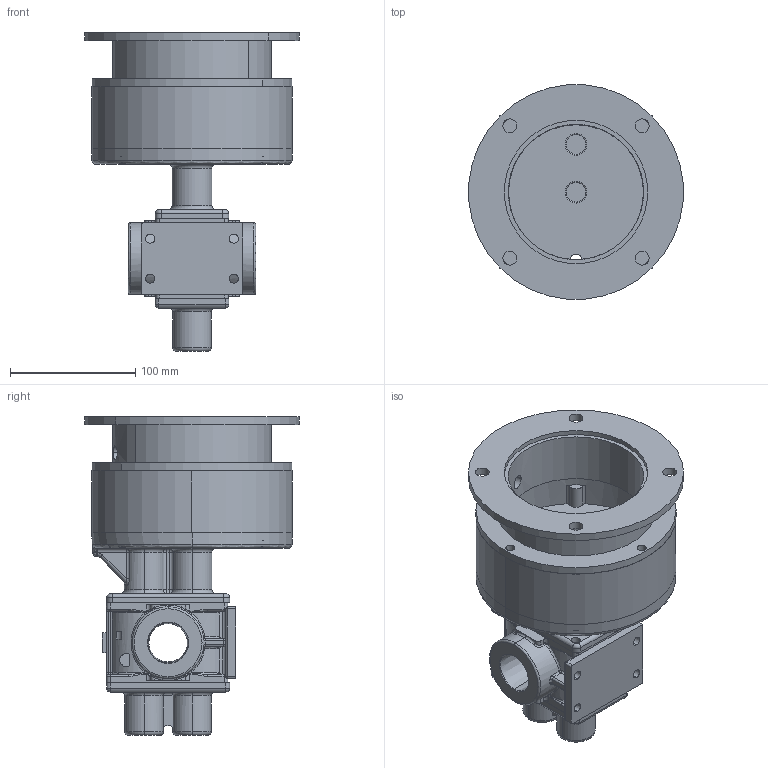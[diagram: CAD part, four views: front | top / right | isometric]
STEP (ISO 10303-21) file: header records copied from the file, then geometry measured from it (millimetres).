
FILE_DESCRIPTION (( 'STEP AP214' ), '1' );
FILE_NAME ('GMC8 FNPT 56-140 NO MOTOR.STEP', '2025-10-02T11:24:02', ( '' ), ( '' ), 'SwSTEP 2.0', 'SolidWorks 2024', '' );
FILE_SCHEMA (( 'AUTOMOTIVE_DESIGN' ));
Length unit declared in the file: inch
Products named in the file (1): GMC8 FNPT 56-140 NO MOTOR
Bounding box: 170.8 x 170.8 x 254.18 mm (x, y, z)
Volume: 1038855 mm3; surface area: 302777.1 mm2
Topology: 12 solids, 12 shells, 1918 faces, 5067 edges, 3260 vertices
Faces by surface type: plane 869, cylinder 433, bspline 396, torus 110, cone 81, sphere 29
Entity records: 79110 total; most frequent: CARTESIAN_POINT 33611, ORIENTED_EDGE 10102, DIRECTION 8259, EDGE_CURVE 5051, VERTEX_POINT 3260, LINE 2887, VECTOR 2887, AXIS2_PLACEMENT_3D 2686
